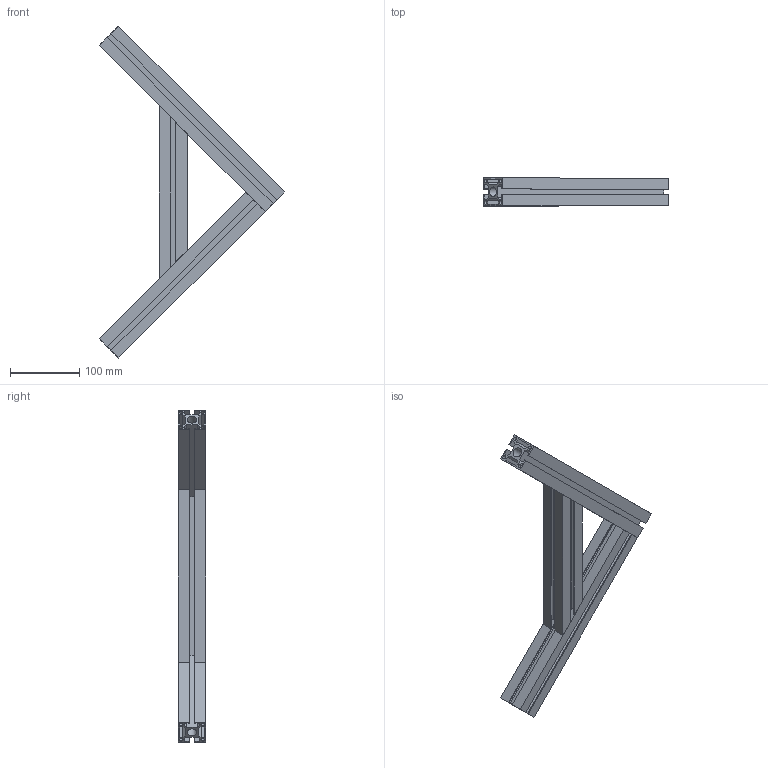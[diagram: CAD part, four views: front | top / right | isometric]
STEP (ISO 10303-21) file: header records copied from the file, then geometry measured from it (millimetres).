
FILE_DESCRIPTION((''),'2;1');
FILE_NAME('C:\Documents and Settings\jaromersky\Plocha\KANYA.stp','2015-04-04T23:10:18',('Jaromersky'),(''),'Autodesk Inventor 2008','Autodesk Inventor 2008','');
FILE_SCHEMA(('AUTOMOTIVE_DESIGN { 1 0 10303 214 1 1 1 1 }'));
Length unit declared in the file: millimetre
Products named in the file (4): Sestava1; super light extrusion 40x40, C03-1_C03-1-D001-E001_250_C03-1--70--70_250; super light extrusion 40x40, C03-1_C03-1-A001-4000_300_C03-1--10--02_300; super light extrusion 40x40, C03-1_C03-1-4000-4000_340_C03-1--02--02_340
Assembly tree (3 placements, depth 2):
  Sestava1
    super light extrusion 40x40, C03-1_C03-1-D001-E001_250_C03-1--70--70_250
    super light extrusion 40x40, C03-1_C03-1-A001-4000_300_C03-1--10--02_300
    super light extrusion 40x40, C03-1_C03-1-4000-4000_340_C03-1--02--02_340
Bounding box: 268.7 x 40 x 480.83 mm (x, y, z)
Volume: 541031.6 mm3; surface area: 380678.7 mm2
Topology: 3 solids, 3 shells, 177 faces, 517 edges, 346 vertices
Faces by surface type: plane 150, cylinder 27
Full cylindrical faces by diameter (mm): 5 x12, 13.7 x6, 18.1 x3
Entity records: 6226 total; most frequent: CARTESIAN_POINT 1402, ORIENTED_EDGE 978, DIRECTION 908, EDGE_CURVE 489, VECTOR 426, LINE 426, VERTEX_POINT 339, AXIS2_PLACEMENT_3D 241
